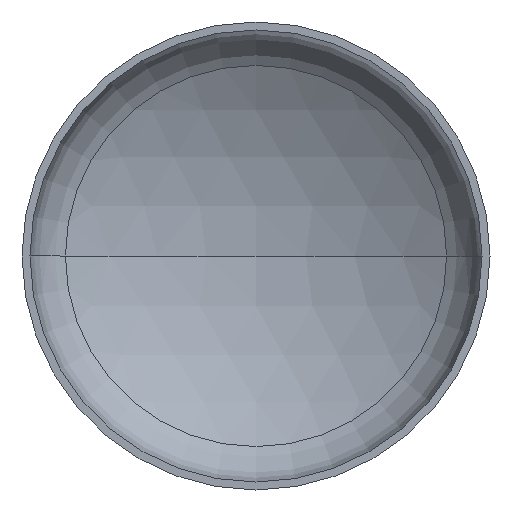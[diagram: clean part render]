
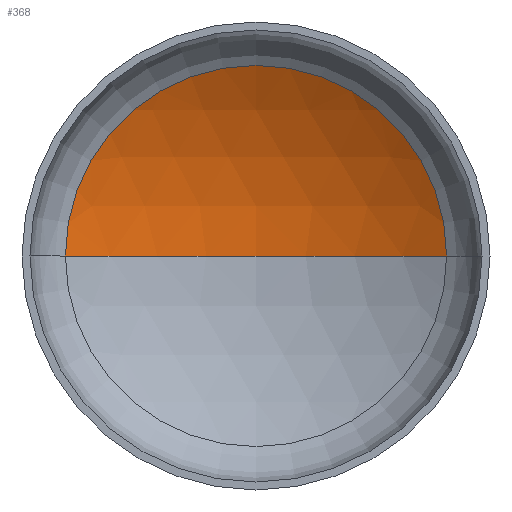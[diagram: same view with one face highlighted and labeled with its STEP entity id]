
A CAD part, front view. The second image highlights one B-rep face of the part: STEP entity #368.
In plain terms, the highlighted spherical face has radius 1920 mm.
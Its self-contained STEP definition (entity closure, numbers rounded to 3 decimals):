
#7 = DIRECTION ( 'NONE',  ( 1., 0., 0. ) ) ;
#14 = EDGE_LOOP ( 'NONE', ( #73, #59, #25 ) ) ;
#17 = CARTESIAN_POINT ( 'NONE',  ( 0., 448.477, 0. ) ) ;
#20 = SPHERICAL_SURFACE ( 'NONE', #164, 1920. ) ;
#25 = ORIENTED_EDGE ( 'NONE', *, *, #159, .T. ) ;
#34 = VERTEX_POINT ( 'NONE', #364 ) ;
#59 = ORIENTED_EDGE ( 'NONE', *, *, #163, .T. ) ;
#73 = ORIENTED_EDGE ( 'NONE', *, *, #168, .F. ) ;
#80 = DIRECTION ( 'NONE',  ( -1., 0., 0. ) ) ;
#83 = VERTEX_POINT ( 'NONE', #332 ) ;
#87 = AXIS2_PLACEMENT_3D ( 'NONE', #205, #211, #223 ) ;
#91 = AXIS2_PLACEMENT_3D ( 'NONE', #280, #407, #80 ) ;
#98 = AXIS2_PLACEMENT_3D ( 'NONE', #17, #202, #7 ) ;
#137 = CARTESIAN_POINT ( 'NONE',  ( 0., -1204.159, 0. ) ) ;
#159 = EDGE_CURVE ( 'NONE', #311, #34, #399, .T. ) ;
#163 = EDGE_CURVE ( 'NONE', #83, #311, #341, .T. ) ;
#164 = AXIS2_PLACEMENT_3D ( 'NONE', #137, #343, #177 ) ;
#168 = EDGE_CURVE ( 'NONE', #83, #34, #222, .T. ) ;
#177 = DIRECTION ( 'NONE',  ( -1., 0., 0. ) ) ;
#181 = FACE_OUTER_BOUND ( 'NONE', #14, .T. ) ;
#202 = DIRECTION ( 'NONE',  ( 0., -1., 0. ) ) ;
#205 = CARTESIAN_POINT ( 'NONE',  ( 0., -1204.159, 0. ) ) ;
#211 = DIRECTION ( 'NONE',  ( 0., 0., 1. ) ) ;
#222 = CIRCLE ( 'NONE', #87, 1920. ) ;
#223 = DIRECTION ( 'NONE',  ( 1., 0., 0. ) ) ;
#280 = CARTESIAN_POINT ( 'NONE',  ( 0., -1204.159, 0. ) ) ;
#311 = VERTEX_POINT ( 'NONE', #385 ) ;
#332 = CARTESIAN_POINT ( 'NONE',  ( 0., 715.841, 0. ) ) ;
#341 = CIRCLE ( 'NONE', #91, 1920. ) ;
#343 = DIRECTION ( 'NONE',  ( 0., 0., -1. ) ) ;
#364 = CARTESIAN_POINT ( 'NONE',  ( -977.342, 448.477, 0. ) ) ;
#368 = ADVANCED_FACE ( 'NONE', ( #181 ), #20, .F. ) ;
#385 = CARTESIAN_POINT ( 'NONE',  ( 977.342, 448.477, 0. ) ) ;
#399 = CIRCLE ( 'NONE', #98, 977.342 ) ;
#407 = DIRECTION ( 'NONE',  ( 0., 0., -1. ) ) ;
